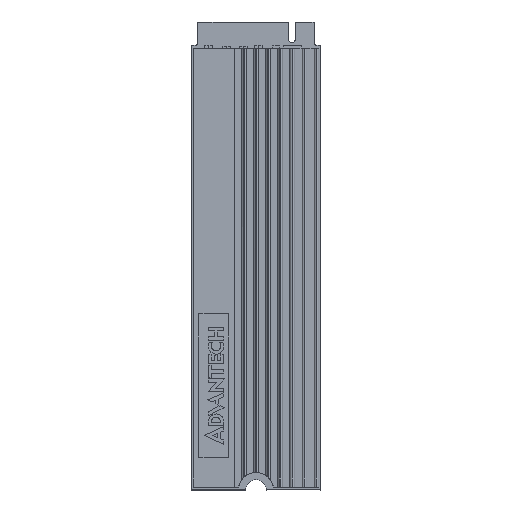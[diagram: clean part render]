
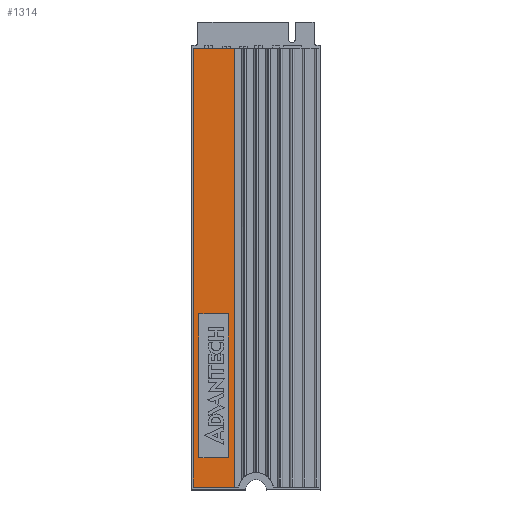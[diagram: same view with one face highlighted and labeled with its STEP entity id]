
A CAD part, top view. The second image highlights one B-rep face of the part: STEP entity #1314.
In plain terms, the highlighted planar face has unit normal (0, 0, 1).
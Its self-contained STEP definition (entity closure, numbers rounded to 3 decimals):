
#831 = CARTESIAN_POINT ( 'NONE',  ( -3.74, 75.5, 5.9 ) ) ;
#1314 = ADVANCED_FACE ( 'NONE', ( #56896, #50970 ), #22409, .T. ) ;
#1964 = ORIENTED_EDGE ( 'NONE', *, *, #2022, .F. ) ;
#2022 = EDGE_CURVE ( 'NONE', #39829, #55881, #50584, .T. ) ;
#2931 = CARTESIAN_POINT ( 'NONE',  ( -9.75, 5.5, 5.9 ) ) ;
#2941 = CARTESIAN_POINT ( 'NONE',  ( 0., 0.5, 5.9 ) ) ;
#5384 = VERTEX_POINT ( 'NONE', #8138 ) ;
#5731 = EDGE_LOOP ( 'NONE', ( #63678, #43795, #48363, #21007 ) ) ;
#5988 = DIRECTION ( 'NONE',  ( -1., 0., 0. ) ) ;
#7329 = EDGE_CURVE ( 'NONE', #45032, #39829, #14026, .T. ) ;
#7355 = VECTOR ( 'NONE', #41602, 1000. ) ;
#8138 = CARTESIAN_POINT ( 'NONE',  ( -10.75, 75.5, 5.9 ) ) ;
#8790 = VECTOR ( 'NONE', #68213, 1000. ) ;
#9291 = CARTESIAN_POINT ( 'NONE',  ( 0., 75.5, 5.9 ) ) ;
#11538 = CARTESIAN_POINT ( 'NONE',  ( -4.54, 75.5, 5.9 ) ) ;
#12047 = CARTESIAN_POINT ( 'NONE',  ( -3.74, 0.5, 5.9 ) ) ;
#14026 = LINE ( 'NONE', #32757, #58284 ) ;
#14136 = CARTESIAN_POINT ( 'NONE',  ( -4.75, 5.5, 5.9 ) ) ;
#14924 = CARTESIAN_POINT ( 'NONE',  ( -3.74, 75.5, 5.9 ) ) ;
#14952 = ORIENTED_EDGE ( 'NONE', *, *, #7329, .F. ) ;
#16789 = EDGE_CURVE ( 'NONE', #48887, #48162, #63158, .T. ) ;
#16968 = DIRECTION ( 'NONE',  ( 0., 0., 1. ) ) ;
#21007 = ORIENTED_EDGE ( 'NONE', *, *, #63669, .T. ) ;
#21976 = EDGE_LOOP ( 'NONE', ( #14952, #33557, #35333, #1964 ) ) ;
#22409 = PLANE ( 'NONE',  #45488 ) ;
#22711 = CARTESIAN_POINT ( 'NONE',  ( -4.75, 30.1, 5.9 ) ) ;
#24393 = VERTEX_POINT ( 'NONE', #831 ) ;
#25378 = VECTOR ( 'NONE', #49730, 1000. ) ;
#26093 = DIRECTION ( 'NONE',  ( 0., -1., 0. ) ) ;
#27880 = CARTESIAN_POINT ( 'NONE',  ( -10.75, 0.5, 5.9 ) ) ;
#28808 = LINE ( 'NONE', #50427, #25378 ) ;
#32051 = LINE ( 'NONE', #9291, #65221 ) ;
#32757 = CARTESIAN_POINT ( 'NONE',  ( -9.75, 30.1, 5.9 ) ) ;
#33086 = DIRECTION ( 'NONE',  ( 0., 1., 0. ) ) ;
#33557 = ORIENTED_EDGE ( 'NONE', *, *, #69064, .F. ) ;
#35333 = ORIENTED_EDGE ( 'NONE', *, *, #57373, .F. ) ;
#37985 = DIRECTION ( 'NONE',  ( 0., 1., 0. ) ) ;
#39140 = VECTOR ( 'NONE', #33086, 1000. ) ;
#39829 = VERTEX_POINT ( 'NONE', #50580 ) ;
#40663 = VECTOR ( 'NONE', #26093, 1000. ) ;
#41602 = DIRECTION ( 'NONE',  ( 0., -1., 0. ) ) ;
#43795 = ORIENTED_EDGE ( 'NONE', *, *, #16789, .F. ) ;
#45032 = VERTEX_POINT ( 'NONE', #55013 ) ;
#45370 = VERTEX_POINT ( 'NONE', #14136 ) ;
#45488 = AXIS2_PLACEMENT_3D ( 'NONE', #11538, #16968, #49228 ) ;
#46534 = EDGE_CURVE ( 'NONE', #24393, #48887, #48251, .T. ) ;
#47450 = DIRECTION ( 'NONE',  ( -1., 0., 0. ) ) ;
#48162 = VERTEX_POINT ( 'NONE', #67132 ) ;
#48251 = LINE ( 'NONE', #14924, #40663 ) ;
#48363 = ORIENTED_EDGE ( 'NONE', *, *, #46534, .F. ) ;
#48887 = VERTEX_POINT ( 'NONE', #12047 ) ;
#49228 = DIRECTION ( 'NONE',  ( 0., -1., 0. ) ) ;
#49730 = DIRECTION ( 'NONE',  ( 1., 0., 0. ) ) ;
#50427 = CARTESIAN_POINT ( 'NONE',  ( -4.75, 5.5, 5.9 ) ) ;
#50580 = CARTESIAN_POINT ( 'NONE',  ( -9.75, 30.1, 5.9 ) ) ;
#50584 = LINE ( 'NONE', #2931, #7355 ) ;
#50970 = FACE_BOUND ( 'NONE', #21976, .T. ) ;
#54392 = VECTOR ( 'NONE', #37985, 1000. ) ;
#55013 = CARTESIAN_POINT ( 'NONE',  ( -4.75, 30.1, 5.9 ) ) ;
#55881 = VERTEX_POINT ( 'NONE', #57776 ) ;
#56896 = FACE_OUTER_BOUND ( 'NONE', #5731, .T. ) ;
#57373 = EDGE_CURVE ( 'NONE', #55881, #45370, #28808, .T. ) ;
#57726 = LINE ( 'NONE', #27880, #39140 ) ;
#57776 = CARTESIAN_POINT ( 'NONE',  ( -9.75, 5.5, 5.9 ) ) ;
#58284 = VECTOR ( 'NONE', #5988, 1000. ) ;
#61685 = EDGE_CURVE ( 'NONE', #48162, #5384, #57726, .T. ) ;
#63158 = LINE ( 'NONE', #2941, #8790 ) ;
#63669 = EDGE_CURVE ( 'NONE', #24393, #5384, #32051, .T. ) ;
#63678 = ORIENTED_EDGE ( 'NONE', *, *, #61685, .F. ) ;
#65221 = VECTOR ( 'NONE', #47450, 1000. ) ;
#67132 = CARTESIAN_POINT ( 'NONE',  ( -10.75, 0.5, 5.9 ) ) ;
#68213 = DIRECTION ( 'NONE',  ( -1., 0., 0. ) ) ;
#68924 = LINE ( 'NONE', #22711, #54392 ) ;
#69064 = EDGE_CURVE ( 'NONE', #45370, #45032, #68924, .T. ) ;
